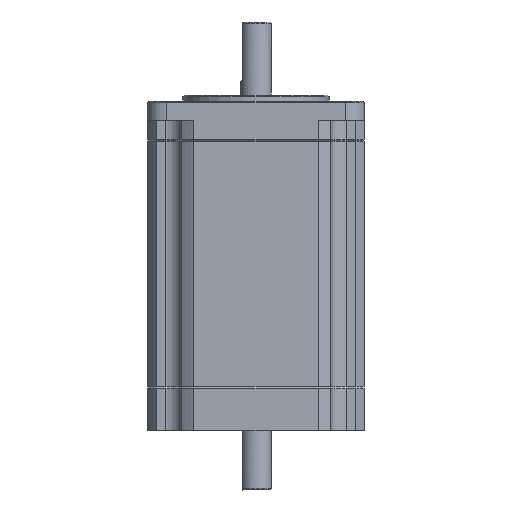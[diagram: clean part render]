
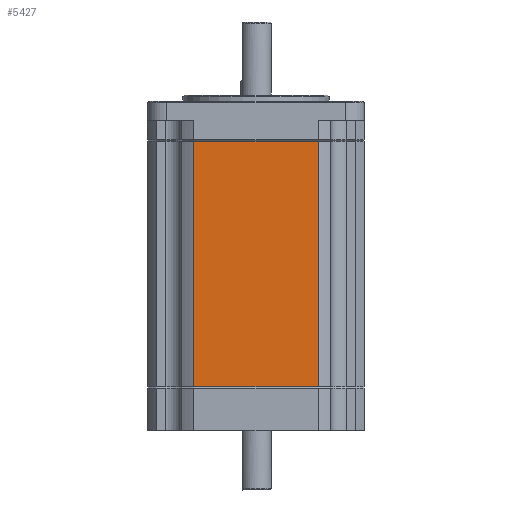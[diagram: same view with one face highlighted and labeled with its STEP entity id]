
A CAD part, front view. The second image highlights one B-rep face of the part: STEP entity #5427.
In plain terms, the highlighted planar face has unit normal (0, -1, 0).
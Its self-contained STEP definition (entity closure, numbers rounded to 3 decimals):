
#899 = CARTESIAN_POINT ( 'NONE',  ( -16.156, -28.2, 0. ) ) ;
#1143 = EDGE_CURVE ( 'NONE', #7468, #8726, #7092, .T. ) ;
#1534 = VECTOR ( 'NONE', #15517, 1000. ) ;
#1590 = DIRECTION ( 'NONE',  ( 0., 0., -1. ) ) ;
#2200 = CARTESIAN_POINT ( 'NONE',  ( -16.156, -28.2, -64.05 ) ) ;
#2407 = VERTEX_POINT ( 'NONE', #15347 ) ;
#2561 = CARTESIAN_POINT ( 'NONE',  ( 16.156, -28.2, -64.05 ) ) ;
#3909 = LINE ( 'NONE', #2561, #16434 ) ;
#4152 = CARTESIAN_POINT ( 'NONE',  ( -16.156, -28.2, 0. ) ) ;
#4156 = ORIENTED_EDGE ( 'NONE', *, *, #6324, .T. ) ;
#4398 = VECTOR ( 'NONE', #1590, 1000. ) ;
#5155 = FACE_OUTER_BOUND ( 'NONE', #17634, .T. ) ;
#5344 = PLANE ( 'NONE',  #8191 ) ;
#5427 = ADVANCED_FACE ( 'NONE', ( #5155 ), #5344, .T. ) ;
#6193 = ORIENTED_EDGE ( 'NONE', *, *, #1143, .T. ) ;
#6324 = EDGE_CURVE ( 'NONE', #2407, #12565, #7802, .T. ) ;
#6681 = DIRECTION ( 'NONE',  ( 0., -1., 0. ) ) ;
#7092 = LINE ( 'NONE', #11385, #1534 ) ;
#7468 = VERTEX_POINT ( 'NONE', #13539 ) ;
#7802 = LINE ( 'NONE', #899, #15093 ) ;
#7952 = DIRECTION ( 'NONE',  ( 0., 0., -1. ) ) ;
#8191 = AXIS2_PLACEMENT_3D ( 'NONE', #2200, #6681, #12051 ) ;
#8281 = EDGE_CURVE ( 'NONE', #2407, #8726, #3909, .T. ) ;
#8726 = VERTEX_POINT ( 'NONE', #16597 ) ;
#9063 = DIRECTION ( 'NONE',  ( -1., 0., 0. ) ) ;
#10626 = ORIENTED_EDGE ( 'NONE', *, *, #8281, .F. ) ;
#11385 = CARTESIAN_POINT ( 'NONE',  ( 0., -28.2, -64.05 ) ) ;
#12051 = DIRECTION ( 'NONE',  ( 0., 0., -1. ) ) ;
#12565 = VERTEX_POINT ( 'NONE', #4152 ) ;
#13539 = CARTESIAN_POINT ( 'NONE',  ( -16.156, -28.2, -64.05 ) ) ;
#13606 = CARTESIAN_POINT ( 'NONE',  ( -16.156, -28.2, -64.05 ) ) ;
#14286 = ORIENTED_EDGE ( 'NONE', *, *, #16787, .T. ) ;
#15093 = VECTOR ( 'NONE', #9063, 1000. ) ;
#15347 = CARTESIAN_POINT ( 'NONE',  ( 16.156, -28.2, 0. ) ) ;
#15517 = DIRECTION ( 'NONE',  ( 1., 0., 0. ) ) ;
#16434 = VECTOR ( 'NONE', #7952, 1000. ) ;
#16569 = LINE ( 'NONE', #13606, #4398 ) ;
#16597 = CARTESIAN_POINT ( 'NONE',  ( 16.156, -28.2, -64.05 ) ) ;
#16787 = EDGE_CURVE ( 'NONE', #12565, #7468, #16569, .T. ) ;
#17634 = EDGE_LOOP ( 'NONE', ( #6193, #10626, #4156, #14286 ) ) ;
